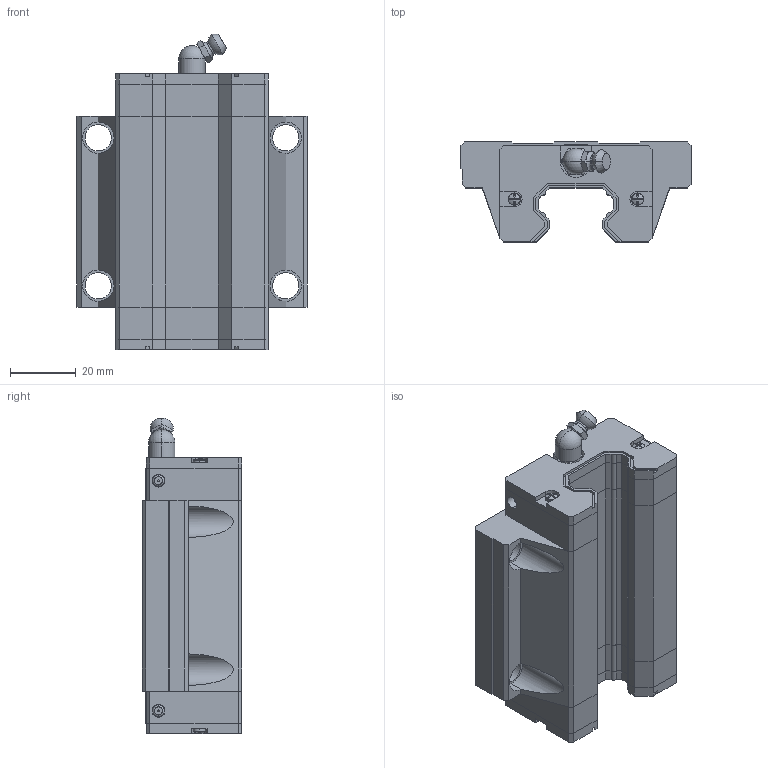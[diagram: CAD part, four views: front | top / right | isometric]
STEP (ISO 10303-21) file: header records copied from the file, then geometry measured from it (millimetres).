
FILE_DESCRIPTION (( 'STEP AP203' ), '1' );
FILE_NAME ('HGW25CC.STEP', '2021-10-22T07:52:42', ( '微软用户' ), ( '微软中国' ), 'SwSTEP 2.0', 'SolidWorks 2012', '' );
FILE_SCHEMA (( 'CONFIG_CONTROL_DESIGN' ));
Length unit declared in the file: millimetre
Products named in the file (1): HGW25CC
Bounding box: 70 x 30.4 x 96 mm (x, y, z)
Volume: 108446.3 mm3; surface area: 31230.4 mm2
Topology: 5 solids, 5 shells, 439 faces, 1184 edges, 777 vertices
Faces by surface type: plane 304, cylinder 86, cone 23, torus 20, sphere 6
Entity records: 14284 total; most frequent: CARTESIAN_POINT 3019, ORIENTED_EDGE 2360, DIRECTION 2297, EDGE_CURVE 1180, LINE 839, VECTOR 839, VERTEX_POINT 775, AXIS2_PLACEMENT_3D 729
